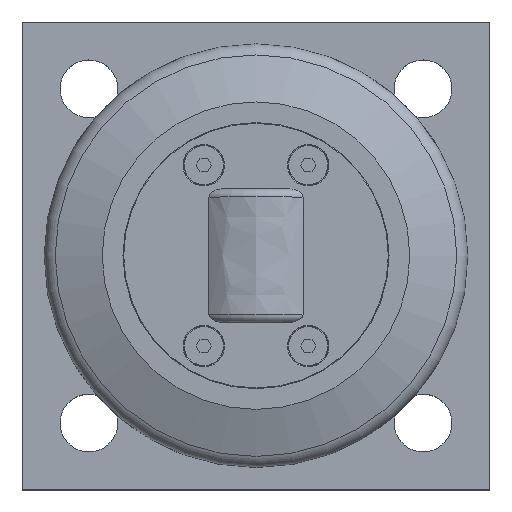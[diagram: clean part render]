
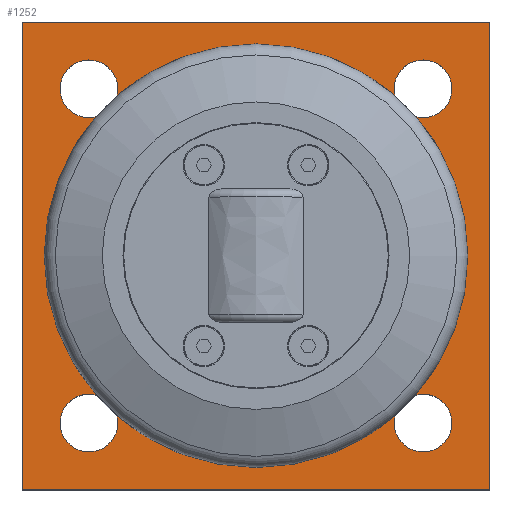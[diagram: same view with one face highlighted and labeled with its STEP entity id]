
A CAD part, top view. The second image highlights one B-rep face of the part: STEP entity #1252.
In plain terms, the highlighted planar face has unit normal (0, 0, 1).
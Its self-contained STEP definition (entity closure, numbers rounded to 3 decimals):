
#45=FACE_BOUND('',#263,.T.);
#46=FACE_BOUND('',#264,.T.);
#47=FACE_BOUND('',#265,.T.);
#48=FACE_BOUND('',#266,.T.);
#49=FACE_BOUND('',#267,.T.);
#97=CIRCLE('',#1380,39.5);
#98=CIRCLE('',#1382,8.647);
#99=CIRCLE('',#1383,8.647);
#100=CIRCLE('',#1384,8.647);
#101=CIRCLE('',#1385,8.647);
#102=CIRCLE('',#1386,8.647);
#103=CIRCLE('',#1387,8.647);
#104=CIRCLE('',#1388,8.647);
#105=CIRCLE('',#1389,8.647);
#180=FACE_OUTER_BOUND('',#262,.T.);
#262=EDGE_LOOP('',(#1013,#1014,#1015,#1016));
#263=EDGE_LOOP('',(#1017,#1018));
#264=EDGE_LOOP('',(#1019,#1020));
#265=EDGE_LOOP('',(#1021,#1022));
#266=EDGE_LOOP('',(#1023,#1024));
#267=EDGE_LOOP('',(#1025));
#384=LINE('',#2086,#488);
#385=LINE('',#2088,#489);
#386=LINE('',#2090,#490);
#387=LINE('',#2091,#491);
#488=VECTOR('',#1682,10.);
#489=VECTOR('',#1683,10.);
#490=VECTOR('',#1684,10.);
#491=VECTOR('',#1685,10.);
#594=VERTEX_POINT('',#2080);
#595=VERTEX_POINT('',#2084);
#596=VERTEX_POINT('',#2085);
#597=VERTEX_POINT('',#2087);
#598=VERTEX_POINT('',#2089);
#599=VERTEX_POINT('',#2092);
#600=VERTEX_POINT('',#2093);
#601=VERTEX_POINT('',#2096);
#602=VERTEX_POINT('',#2097);
#603=VERTEX_POINT('',#2100);
#604=VERTEX_POINT('',#2101);
#605=VERTEX_POINT('',#2104);
#606=VERTEX_POINT('',#2105);
#751=EDGE_CURVE('',#594,#594,#97,.T.);
#752=EDGE_CURVE('',#595,#596,#384,.T.);
#753=EDGE_CURVE('',#597,#595,#385,.T.);
#754=EDGE_CURVE('',#598,#597,#386,.T.);
#755=EDGE_CURVE('',#596,#598,#387,.T.);
#756=EDGE_CURVE('',#599,#600,#98,.T.);
#757=EDGE_CURVE('',#600,#599,#99,.T.);
#758=EDGE_CURVE('',#601,#602,#100,.T.);
#759=EDGE_CURVE('',#602,#601,#101,.T.);
#760=EDGE_CURVE('',#603,#604,#102,.T.);
#761=EDGE_CURVE('',#604,#603,#103,.T.);
#762=EDGE_CURVE('',#605,#606,#104,.T.);
#763=EDGE_CURVE('',#606,#605,#105,.T.);
#1013=ORIENTED_EDGE('',*,*,#752,.F.);
#1014=ORIENTED_EDGE('',*,*,#753,.F.);
#1015=ORIENTED_EDGE('',*,*,#754,.F.);
#1016=ORIENTED_EDGE('',*,*,#755,.F.);
#1017=ORIENTED_EDGE('',*,*,#756,.T.);
#1018=ORIENTED_EDGE('',*,*,#757,.T.);
#1019=ORIENTED_EDGE('',*,*,#758,.T.);
#1020=ORIENTED_EDGE('',*,*,#759,.T.);
#1021=ORIENTED_EDGE('',*,*,#760,.T.);
#1022=ORIENTED_EDGE('',*,*,#761,.T.);
#1023=ORIENTED_EDGE('',*,*,#762,.T.);
#1024=ORIENTED_EDGE('',*,*,#763,.T.);
#1025=ORIENTED_EDGE('',*,*,#751,.T.);
#1193=PLANE('',#1381);
#1252=ADVANCED_FACE('',(#180,#45,#46,#47,#48,#49),#1193,.T.);
#1380=AXIS2_PLACEMENT_3D('',#2082,#1678,#1679);
#1381=AXIS2_PLACEMENT_3D('',#2083,#1680,#1681);
#1382=AXIS2_PLACEMENT_3D('',#2094,#1686,#1687);
#1383=AXIS2_PLACEMENT_3D('',#2095,#1688,#1689);
#1384=AXIS2_PLACEMENT_3D('',#2098,#1690,#1691);
#1385=AXIS2_PLACEMENT_3D('',#2099,#1692,#1693);
#1386=AXIS2_PLACEMENT_3D('',#2102,#1694,#1695);
#1387=AXIS2_PLACEMENT_3D('',#2103,#1696,#1697);
#1388=AXIS2_PLACEMENT_3D('',#2106,#1698,#1699);
#1389=AXIS2_PLACEMENT_3D('',#2107,#1700,#1701);
#1678=DIRECTION('center_axis',(0.,0.,-1.));
#1679=DIRECTION('ref_axis',(0.,-1.,0.));
#1680=DIRECTION('center_axis',(0.,0.,1.));
#1681=DIRECTION('ref_axis',(1.,0.,0.));
#1682=DIRECTION('',(0.,1.,0.));
#1683=DIRECTION('',(-1.,0.,0.));
#1684=DIRECTION('',(0.,-1.,0.));
#1685=DIRECTION('',(1.,0.,0.));
#1686=DIRECTION('center_axis',(0.,0.,-1.));
#1687=DIRECTION('ref_axis',(1.,0.,0.));
#1688=DIRECTION('center_axis',(0.,0.,-1.));
#1689=DIRECTION('ref_axis',(1.,0.,0.));
#1690=DIRECTION('center_axis',(0.,0.,-1.));
#1691=DIRECTION('ref_axis',(1.,0.,0.));
#1692=DIRECTION('center_axis',(0.,0.,-1.));
#1693=DIRECTION('ref_axis',(1.,0.,0.));
#1694=DIRECTION('center_axis',(0.,0.,-1.));
#1695=DIRECTION('ref_axis',(1.,0.,0.));
#1696=DIRECTION('center_axis',(0.,0.,-1.));
#1697=DIRECTION('ref_axis',(1.,0.,0.));
#1698=DIRECTION('center_axis',(0.,0.,-1.));
#1699=DIRECTION('ref_axis',(1.,0.,0.));
#1700=DIRECTION('center_axis',(0.,0.,-1.));
#1701=DIRECTION('ref_axis',(1.,0.,0.));
#2080=CARTESIAN_POINT('',(70.,109.5,20.));
#2082=CARTESIAN_POINT('Origin',(70.,70.,20.));
#2083=CARTESIAN_POINT('Origin',(70.,70.,20.));
#2084=CARTESIAN_POINT('',(0.,0.,20.));
#2085=CARTESIAN_POINT('',(0.,140.,20.));
#2086=CARTESIAN_POINT('',(0.,140.,20.));
#2087=CARTESIAN_POINT('',(140.,0.,20.));
#2088=CARTESIAN_POINT('',(0.,0.,20.));
#2089=CARTESIAN_POINT('',(140.,140.,20.));
#2090=CARTESIAN_POINT('',(140.,0.,20.));
#2091=CARTESIAN_POINT('',(140.,140.,20.));
#2092=CARTESIAN_POINT('',(28.647,20.,20.));
#2093=CARTESIAN_POINT('',(11.353,20.,20.));
#2094=CARTESIAN_POINT('Origin',(20.,20.,20.));
#2095=CARTESIAN_POINT('Origin',(20.,20.,20.));
#2096=CARTESIAN_POINT('',(128.647,20.,20.));
#2097=CARTESIAN_POINT('',(111.353,20.,20.));
#2098=CARTESIAN_POINT('Origin',(120.,20.,20.));
#2099=CARTESIAN_POINT('Origin',(120.,20.,20.));
#2100=CARTESIAN_POINT('',(128.647,120.,20.));
#2101=CARTESIAN_POINT('',(111.353,120.,20.));
#2102=CARTESIAN_POINT('Origin',(120.,120.,20.));
#2103=CARTESIAN_POINT('Origin',(120.,120.,20.));
#2104=CARTESIAN_POINT('',(28.647,120.,20.));
#2105=CARTESIAN_POINT('',(11.353,120.,20.));
#2106=CARTESIAN_POINT('Origin',(20.,120.,20.));
#2107=CARTESIAN_POINT('Origin',(20.,120.,20.));
